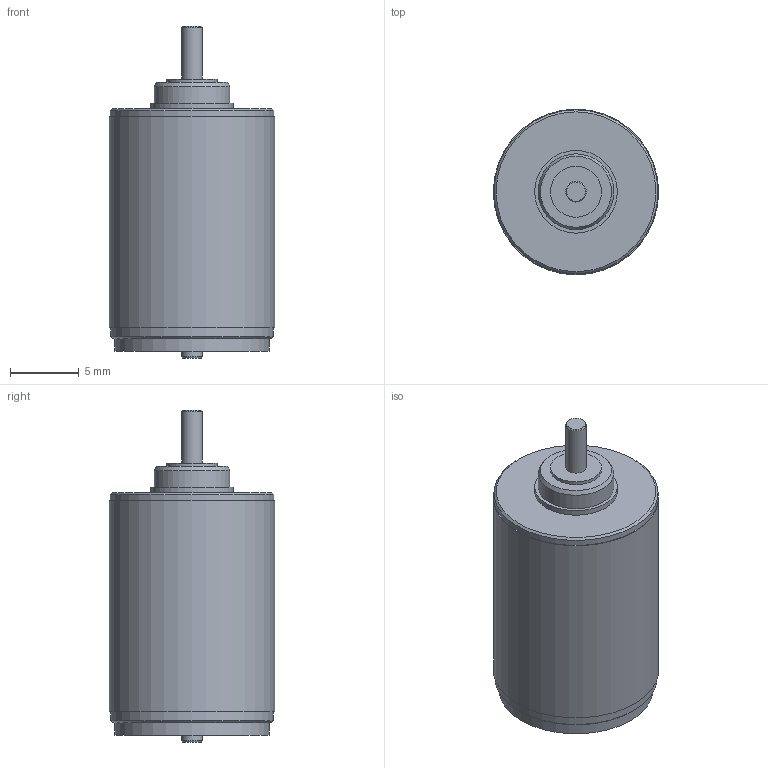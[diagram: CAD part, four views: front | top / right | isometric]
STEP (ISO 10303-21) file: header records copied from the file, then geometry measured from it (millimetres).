
FILE_DESCRIPTION(/* description */ (''),/* implementation_level */ '2;1');
FILE_NAME(/* name */ 'DM1220_51.stp',/* time_stamp */ '2018-11-28T08:26:16+01:00',/* author */ ('DR. FRITZ FAULHABER GmbH & Co. KG'),/* organization */ ('DR. FRITZ FAULHABER GmbH & Co. KG'),/* preprocessor_version */ 'ST-DEVELOPER v16.7',/* originating_system */ 'SIEMENS PLM Software NX 12.0',/* authorisation */ '');
FILE_SCHEMA (('AUTOMOTIVE_DESIGN { 1 0 10303 214 3 1 1 1 }'));
Length unit declared in the file: millimetre
Products named in the file (1): Alle_Motoren
Bounding box: 12 x 12 x 24.1 mm (x, y, z)
Volume: 2016.7 mm3; surface area: 979.7 mm2
Topology: 1 solids, 1 shells, 146 faces, 342 edges, 227 vertices
Faces by surface type: plane 107, extrusion 22, cylinder 12, cone 5
Full cylindrical faces by diameter (mm): 1.5 x2, 3.4 x1, 3.7 x1, 3.85 x1, 4 x1, 5.5 x1, 6 x1, 11.2 x1, 11.8 x1, 11.9 x1, 12 x1
Entity records: 4679 total; most frequent: CARTESIAN_POINT 1529, ORIENTED_EDGE 646, DIRECTION 460, EDGE_CURVE 323, VERTEX_POINT 225, EDGE_LOOP 192, B_SPLINE_CURVE_WITH_KNOTS 186, AXIS2_PLACEMENT_3D 154
